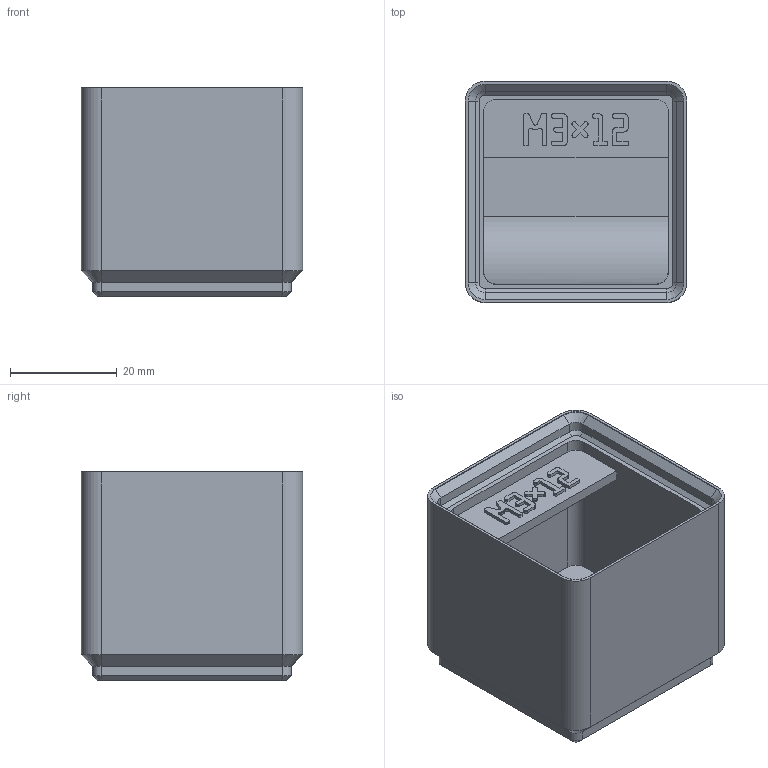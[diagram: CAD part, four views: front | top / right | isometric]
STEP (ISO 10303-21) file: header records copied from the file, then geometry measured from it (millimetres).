
FILE_DESCRIPTION(('Open CASCADE Model'),'2;1');
FILE_NAME('m3-screw-12','2026-11-17T16:08:08',('Author'),('Open CASCADE' ),'Open CASCADE STEP processor 8.0','build123d','Unknown');
FILE_SCHEMA(('AUTOMOTIVE_DESIGN { 1 0 10303 214 1 1 1 1 }'));
Length unit declared in the file: millimetre
Products named in the file (1): m3-screw-12
Bounding box: 41.5 x 41.5 x 39 mm (x, y, z)
Volume: 30860.9 mm3; surface area: 13676.6 mm2
Topology: 1 solids, 1 shells, 608 faces, 1749 edges, 1150 vertices
Faces by surface type: plane 569, cylinder 22, cone 16, extrusion 1
Entity records: 41386 total; most frequent: CARTESIAN_POINT 8561, DIRECTION 5320, VECTOR 3982, LINE 3981, ORIENTED_EDGE 3498, PCURVE 3498, DEFINITIONAL_REPRESENTATION 3498, EDGE_CURVE 1749
